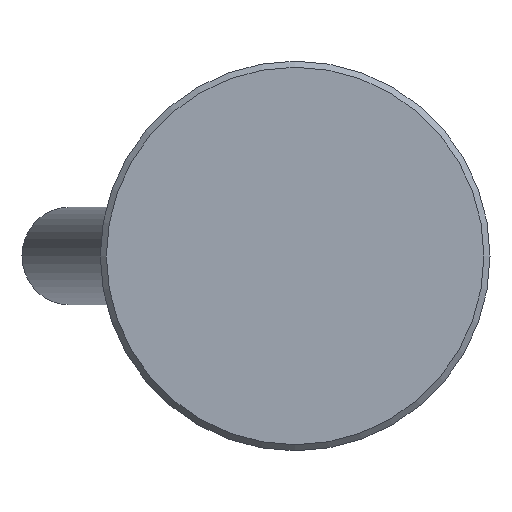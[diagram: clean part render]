
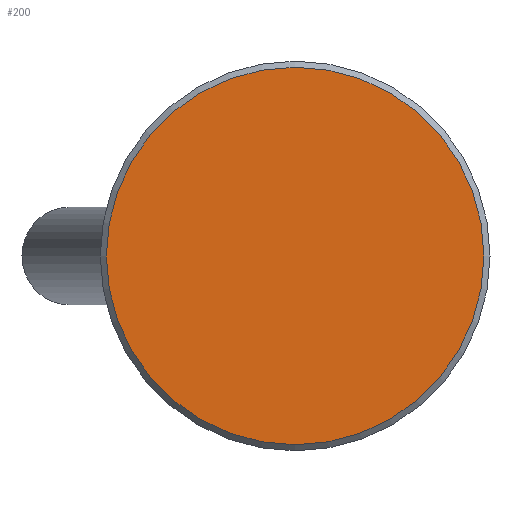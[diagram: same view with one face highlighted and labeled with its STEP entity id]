
A CAD part, front view. The second image highlights one B-rep face of the part: STEP entity #200.
In plain terms, the highlighted planar face has unit normal (0, -1, 0).
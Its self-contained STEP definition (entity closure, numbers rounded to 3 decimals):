
#200 = ADVANCED_FACE( '', ( #390 ), #391, .F. );
#390 = FACE_OUTER_BOUND( '', #586, .T. );
#391 = PLANE( '', #587 );
#586 = EDGE_LOOP( '', ( #896 ) );
#587 = AXIS2_PLACEMENT_3D( '', #897, #898, #899 );
#896 = ORIENTED_EDGE( '', *, *, #1106, .T. );
#897 = CARTESIAN_POINT( '', ( 15.5, 0., 0. ) );
#898 = DIRECTION( '', ( 0., 1., 0. ) );
#899 = DIRECTION( '', ( 0., 0., 1. ) );
#1106 = EDGE_CURVE( '', #1271, #1271, #1272, .T. );
#1271 = VERTEX_POINT( '', #1522 );
#1272 = CIRCLE( '', #1523, 15.5 );
#1522 = CARTESIAN_POINT( '', ( 0., 0., -15.5 ) );
#1523 = AXIS2_PLACEMENT_3D( '', #1957, #1958, #1959 );
#1957 = CARTESIAN_POINT( '', ( 0., 0., 0. ) );
#1958 = DIRECTION( '', ( 0., -1., 0. ) );
#1959 = DIRECTION( '', ( 0., 0., -1. ) );
